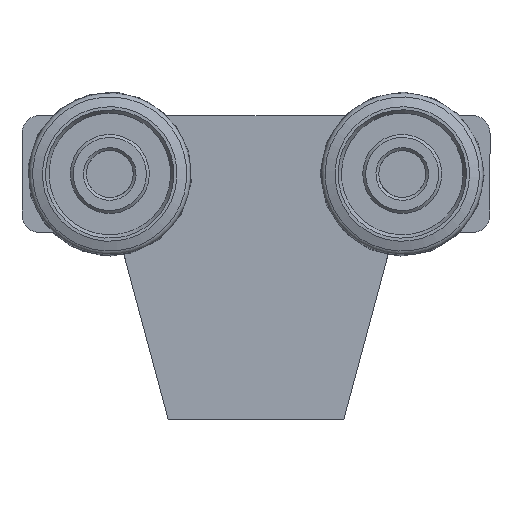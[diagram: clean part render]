
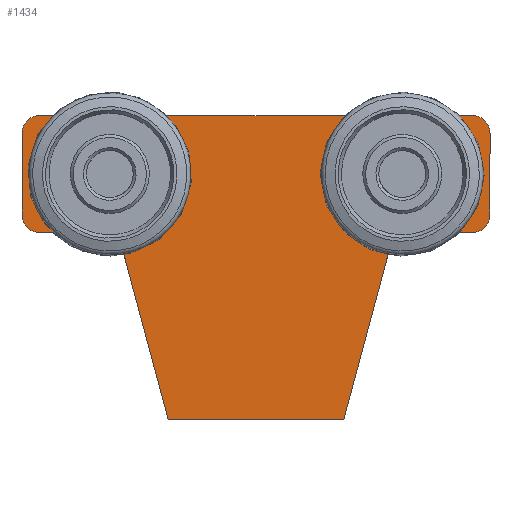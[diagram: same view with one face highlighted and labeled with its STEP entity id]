
A CAD part, top view. The second image highlights one B-rep face of the part: STEP entity #1434.
In plain terms, the highlighted planar face has unit normal (0, 0, 1).
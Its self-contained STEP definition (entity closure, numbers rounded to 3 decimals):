
#103=FACE_BOUND('',#290,.T.);
#104=FACE_BOUND('',#291,.T.);
#141=PLANE('',#1546);
#202=FACE_OUTER_BOUND('',#289,.T.);
#289=EDGE_LOOP('',(#1093,#1094,#1095,#1096,#1097,#1098,#1099,#1100,#1101,
#1102,#1103,#1104,#1105,#1106));
#290=EDGE_LOOP('',(#1107,#1108,#1109,#1110));
#291=EDGE_LOOP('',(#1111,#1112,#1113,#1114));
#382=LINE('',#2125,#494);
#386=LINE('',#2136,#498);
#388=LINE('',#2141,#500);
#393=LINE('',#2155,#505);
#398=LINE('',#2173,#510);
#402=LINE('',#2185,#514);
#406=LINE('',#2197,#518);
#410=LINE('',#2209,#522);
#414=LINE('',#2221,#526);
#418=LINE('',#2233,#530);
#421=LINE('',#2239,#533);
#424=LINE('',#2244,#536);
#494=VECTOR('',#1681,2.222);
#498=VECTOR('',#1693,2.222);
#500=VECTOR('',#1697,2.222);
#505=VECTOR('',#1710,2.222);
#510=VECTOR('',#1729,10.356);
#514=VECTOR('',#1741,14.);
#518=VECTOR('',#1753,74.);
#522=VECTOR('',#1765,14.);
#526=VECTOR('',#1777,10.356);
#530=VECTOR('',#1789,30.06);
#533=VECTOR('',#1794,30.);
#536=VECTOR('',#1799,30.06);
#604=CIRCLE('',#1505,4.15);
#606=CIRCLE('',#1509,6.1);
#608=CIRCLE('',#1514,6.1);
#610=CIRCLE('',#1518,4.15);
#612=CIRCLE('',#1521,4.);
#614=CIRCLE('',#1525,3.);
#616=CIRCLE('',#1529,3.);
#618=CIRCLE('',#1533,3.);
#620=CIRCLE('',#1537,3.);
#622=CIRCLE('',#1541,4.);
#674=VERTEX_POINT('',#2115);
#675=VERTEX_POINT('',#2116);
#678=VERTEX_POINT('',#2124);
#680=VERTEX_POINT('',#2130);
#682=VERTEX_POINT('',#2139);
#683=VERTEX_POINT('',#2140);
#686=VERTEX_POINT('',#2148);
#688=VERTEX_POINT('',#2154);
#690=VERTEX_POINT('',#2163);
#691=VERTEX_POINT('',#2164);
#694=VERTEX_POINT('',#2172);
#696=VERTEX_POINT('',#2178);
#698=VERTEX_POINT('',#2184);
#700=VERTEX_POINT('',#2190);
#702=VERTEX_POINT('',#2196);
#704=VERTEX_POINT('',#2202);
#706=VERTEX_POINT('',#2208);
#708=VERTEX_POINT('',#2214);
#710=VERTEX_POINT('',#2220);
#712=VERTEX_POINT('',#2226);
#714=VERTEX_POINT('',#2232);
#716=VERTEX_POINT('',#2238);
#810=EDGE_CURVE('',#674,#675,#604,.T.);
#814=EDGE_CURVE('',#675,#678,#382,.T.);
#817=EDGE_CURVE('',#678,#680,#606,.T.);
#820=EDGE_CURVE('',#680,#674,#386,.T.);
#822=EDGE_CURVE('',#682,#683,#388,.T.);
#826=EDGE_CURVE('',#683,#686,#608,.T.);
#829=EDGE_CURVE('',#686,#688,#393,.T.);
#832=EDGE_CURVE('',#688,#682,#610,.T.);
#834=EDGE_CURVE('',#690,#691,#612,.T.);
#838=EDGE_CURVE('',#691,#694,#398,.T.);
#841=EDGE_CURVE('',#694,#696,#614,.T.);
#844=EDGE_CURVE('',#696,#698,#402,.T.);
#847=EDGE_CURVE('',#698,#700,#616,.T.);
#850=EDGE_CURVE('',#700,#702,#406,.T.);
#853=EDGE_CURVE('',#702,#704,#618,.T.);
#856=EDGE_CURVE('',#704,#706,#410,.T.);
#859=EDGE_CURVE('',#706,#708,#620,.T.);
#862=EDGE_CURVE('',#708,#710,#414,.T.);
#865=EDGE_CURVE('',#710,#712,#622,.T.);
#868=EDGE_CURVE('',#712,#714,#418,.T.);
#871=EDGE_CURVE('',#714,#716,#421,.T.);
#874=EDGE_CURVE('',#716,#690,#424,.T.);
#1093=ORIENTED_EDGE('',*,*,#834,.F.);
#1094=ORIENTED_EDGE('',*,*,#874,.F.);
#1095=ORIENTED_EDGE('',*,*,#871,.F.);
#1096=ORIENTED_EDGE('',*,*,#868,.F.);
#1097=ORIENTED_EDGE('',*,*,#865,.F.);
#1098=ORIENTED_EDGE('',*,*,#862,.F.);
#1099=ORIENTED_EDGE('',*,*,#859,.F.);
#1100=ORIENTED_EDGE('',*,*,#856,.F.);
#1101=ORIENTED_EDGE('',*,*,#853,.F.);
#1102=ORIENTED_EDGE('',*,*,#850,.F.);
#1103=ORIENTED_EDGE('',*,*,#847,.F.);
#1104=ORIENTED_EDGE('',*,*,#844,.F.);
#1105=ORIENTED_EDGE('',*,*,#841,.F.);
#1106=ORIENTED_EDGE('',*,*,#838,.F.);
#1107=ORIENTED_EDGE('',*,*,#810,.T.);
#1108=ORIENTED_EDGE('',*,*,#814,.T.);
#1109=ORIENTED_EDGE('',*,*,#817,.T.);
#1110=ORIENTED_EDGE('',*,*,#820,.T.);
#1111=ORIENTED_EDGE('',*,*,#822,.T.);
#1112=ORIENTED_EDGE('',*,*,#826,.T.);
#1113=ORIENTED_EDGE('',*,*,#829,.T.);
#1114=ORIENTED_EDGE('',*,*,#832,.T.);
#1434=ADVANCED_FACE('',(#202,#103,#104),#141,.T.);
#1505=AXIS2_PLACEMENT_3D('',#2117,#1673,#1674);
#1509=AXIS2_PLACEMENT_3D('',#2131,#1686,#1687);
#1514=AXIS2_PLACEMENT_3D('',#2149,#1703,#1704);
#1518=AXIS2_PLACEMENT_3D('',#2160,#1715,#1716);
#1521=AXIS2_PLACEMENT_3D('',#2165,#1721,#1722);
#1525=AXIS2_PLACEMENT_3D('',#2179,#1734,#1735);
#1529=AXIS2_PLACEMENT_3D('',#2191,#1746,#1747);
#1533=AXIS2_PLACEMENT_3D('',#2203,#1758,#1759);
#1537=AXIS2_PLACEMENT_3D('',#2215,#1770,#1771);
#1541=AXIS2_PLACEMENT_3D('',#2227,#1782,#1783);
#1546=AXIS2_PLACEMENT_3D('',#2246,#1801,#1802);
#1673=DIRECTION('center_axis',(0.,0.,-1.));
#1674=DIRECTION('ref_axis',(-0.81,0.587,0.));
#1681=DIRECTION('',(-0.866,0.5,0.));
#1686=DIRECTION('center_axis',(0.,0.,-1.));
#1687=DIRECTION('ref_axis',(0.866,0.499,0.));
#1693=DIRECTION('',(-0.866,-0.5,0.));
#1697=DIRECTION('',(-0.866,0.5,0.));
#1703=DIRECTION('center_axis',(0.,0.,-1.));
#1704=DIRECTION('ref_axis',(-0.866,-0.499,0.));
#1710=DIRECTION('',(-0.866,-0.5,0.));
#1715=DIRECTION('center_axis',(0.,0.,-1.));
#1716=DIRECTION('ref_axis',(0.81,-0.587,0.));
#1721=DIRECTION('center_axis',(0.,0.,1.));
#1722=DIRECTION('ref_axis',(-0.966,-0.259,0.));
#1729=DIRECTION('',(1.,0.,0.));
#1734=DIRECTION('center_axis',(0.,0.,-1.));
#1735=DIRECTION('ref_axis',(-1.,0.,0.));
#1741=DIRECTION('',(0.,-1.,0.));
#1746=DIRECTION('center_axis',(0.,0.,-1.));
#1747=DIRECTION('ref_axis',(0.,1.,0.));
#1753=DIRECTION('',(-1.,0.,0.));
#1758=DIRECTION('center_axis',(0.,0.,-1.));
#1759=DIRECTION('ref_axis',(1.,0.,0.));
#1765=DIRECTION('',(0.,1.,0.));
#1770=DIRECTION('center_axis',(0.,0.,-1.));
#1771=DIRECTION('ref_axis',(0.,-1.,0.));
#1777=DIRECTION('',(1.,0.,0.));
#1782=DIRECTION('center_axis',(0.,0.,1.));
#1783=DIRECTION('ref_axis',(0.,-1.,0.));
#1789=DIRECTION('',(0.259,0.966,0.));
#1794=DIRECTION('',(1.,0.,0.));
#1799=DIRECTION('',(0.259,-0.966,0.));
#1801=DIRECTION('center_axis',(0.,0.,1.));
#1802=DIRECTION('ref_axis',(1.,0.,0.));
#2115=CARTESIAN_POINT('',(28.361,2.435,5.));
#2116=CARTESIAN_POINT('',(21.639,2.435,5.));
#2117=CARTESIAN_POINT('Origin',(25.,0.,5.));
#2124=CARTESIAN_POINT('',(19.715,3.546,5.));
#2125=CARTESIAN_POINT('',(11.821,8.104,5.));
#2130=CARTESIAN_POINT('',(30.285,3.546,5.));
#2131=CARTESIAN_POINT('Origin',(25.,0.5,5.));
#2136=CARTESIAN_POINT('',(20.392,-2.166,5.));
#2139=CARTESIAN_POINT('',(-28.361,2.435,5.));
#2140=CARTESIAN_POINT('',(-30.285,3.546,5.));
#2141=CARTESIAN_POINT('',(-19.429,-2.721,5.));
#2148=CARTESIAN_POINT('',(-19.715,3.546,5.));
#2149=CARTESIAN_POINT('Origin',(-25.,0.5,5.));
#2154=CARTESIAN_POINT('',(-21.639,2.435,5.));
#2155=CARTESIAN_POINT('',(-10.858,8.659,5.));
#2160=CARTESIAN_POINT('Origin',(-25.,0.,5.));
#2163=CARTESIAN_POINT('',(22.78,12.965,5.));
#2164=CARTESIAN_POINT('',(26.644,10.,5.));
#2165=CARTESIAN_POINT('Origin',(26.644,14.,5.));
#2172=CARTESIAN_POINT('',(37.,10.,5.));
#2173=CARTESIAN_POINT('',(26.644,10.,5.));
#2178=CARTESIAN_POINT('',(40.,7.,5.));
#2179=CARTESIAN_POINT('Origin',(37.,7.,5.));
#2184=CARTESIAN_POINT('',(40.,-7.,5.));
#2185=CARTESIAN_POINT('',(40.,7.,5.));
#2190=CARTESIAN_POINT('',(37.,-10.,5.));
#2191=CARTESIAN_POINT('Origin',(37.,-7.,5.));
#2196=CARTESIAN_POINT('',(-37.,-10.,5.));
#2197=CARTESIAN_POINT('',(37.,-10.,5.));
#2202=CARTESIAN_POINT('',(-40.,-7.,5.));
#2203=CARTESIAN_POINT('Origin',(-37.,-7.,5.));
#2208=CARTESIAN_POINT('',(-40.,7.,5.));
#2209=CARTESIAN_POINT('',(-40.,-7.,5.));
#2214=CARTESIAN_POINT('',(-37.,10.,5.));
#2215=CARTESIAN_POINT('Origin',(-37.,7.,5.));
#2220=CARTESIAN_POINT('',(-26.644,10.,5.));
#2221=CARTESIAN_POINT('',(-37.,10.,5.));
#2226=CARTESIAN_POINT('',(-22.78,12.965,5.));
#2227=CARTESIAN_POINT('Origin',(-26.644,14.,5.));
#2232=CARTESIAN_POINT('',(-15.,42.,5.));
#2233=CARTESIAN_POINT('',(-22.78,12.965,5.));
#2238=CARTESIAN_POINT('',(15.,42.,5.));
#2239=CARTESIAN_POINT('',(-15.,42.,5.));
#2244=CARTESIAN_POINT('',(15.,42.,5.));
#2246=CARTESIAN_POINT('Origin',(0.,10.305,5.));
